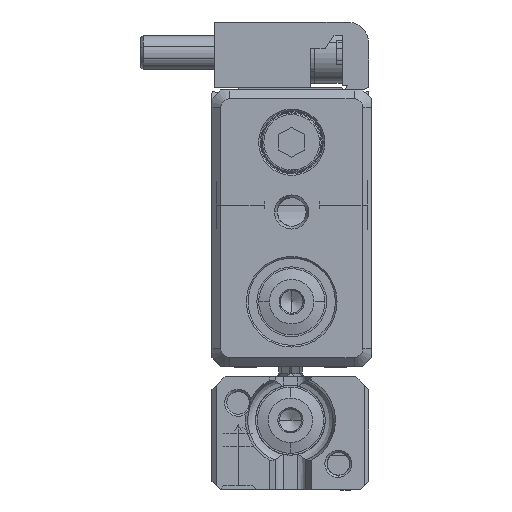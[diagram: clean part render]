
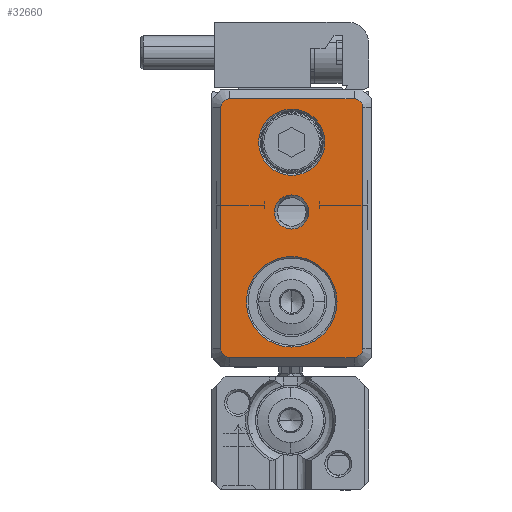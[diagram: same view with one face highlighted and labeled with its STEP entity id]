
A CAD part, left-side view. The second image highlights one B-rep face of the part: STEP entity #32660.
In plain terms, the highlighted planar face has unit normal (-1, 0, 0).
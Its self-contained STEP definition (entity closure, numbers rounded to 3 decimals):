
#30550=CARTESIAN_POINT('',(-93.638,46.3,
-79.283));
#30560=VERTEX_POINT('',#30550);
#30590=CARTESIAN_POINT('',(-93.638,45.3,
-79.283));
#30600=DIRECTION('',(1.,0.,0.));
#30610=DIRECTION('',(0.,1.,0.));
#30620=AXIS2_PLACEMENT_3D('',#30590,#30600,#30610);
#30630=CIRCLE('',#30620,1.);
#30640=CARTESIAN_POINT('',(-93.638,45.3,
-80.283));
#30650=VERTEX_POINT('',#30640);
#30660=EDGE_CURVE('',#30650,#30560,#30630,.T.);
#31560=CARTESIAN_POINT('',(-93.638,38.15,
-65.583));
#31570=DIRECTION('',(1.,0.,0.));
#31580=DIRECTION('',(0.,1.,0.));
#31590=AXIS2_PLACEMENT_3D('',#31560,#31570,#31580);
#31600=PLANE('',#31590);
#31610=CARTESIAN_POINT('',(-93.638,38.15,
-56.983));
#31620=DIRECTION('',(1.,0.,0.));
#31630=DIRECTION('',(0.,-1.,0.));
#31640=AXIS2_PLACEMENT_3D('',#31610,#31620,#31630);
#31650=CIRCLE('',#31640,5.2);
#31660=CARTESIAN_POINT('',(-93.638,32.95,
-56.983));
#31670=VERTEX_POINT('',#31660);
#31680=CARTESIAN_POINT('',(-93.638,43.35,
-56.983));
#31690=VERTEX_POINT('',#31680);
#31700=EDGE_CURVE('',#31670,#31690,#31650,.T.);
#31710=ORIENTED_EDGE('',*,*,#31700,.T.);
#31720=EDGE_CURVE('',#31690,#31670,#31650,.T.);
#31730=ORIENTED_EDGE('',*,*,#31720,.T.);
#31740=EDGE_LOOP('',(#31730,#31710));
#31750=FACE_BOUND('',#31740,.T.);
#31760=CARTESIAN_POINT('',(-93.638,38.15,
-75.283));
#31770=DIRECTION('',(-1.,0.,0.));
#31780=DIRECTION('',(0.,1.,0.));
#31790=AXIS2_PLACEMENT_3D('',#31760,#31770,#31780);
#31800=CIRCLE('',#31790,3.8);
#31810=CARTESIAN_POINT('',(-93.638,34.35,
-75.283));
#31820=VERTEX_POINT('',#31810);
#31830=CARTESIAN_POINT('',(-93.638,41.95,
-75.283));
#31840=VERTEX_POINT('',#31830);
#31850=EDGE_CURVE('',#31820,#31840,#31800,.T.);
#31860=ORIENTED_EDGE('',*,*,#31850,.F.);
#31870=EDGE_CURVE('',#31840,#31820,#31800,.T.);
#31880=ORIENTED_EDGE('',*,*,#31870,.F.);
#31890=EDGE_LOOP('',(#31880,#31860));
#31900=FACE_BOUND('',#31890,.T.);
#31910=CARTESIAN_POINT('',(-93.638,38.15,
-67.283));
#31920=DIRECTION('',(-1.,0.,0.));
#31930=DIRECTION('',(0.,1.,0.));
#31940=AXIS2_PLACEMENT_3D('',#31910,#31920,#31930);
#31950=CIRCLE('',#31940,1.961);
#31960=CARTESIAN_POINT('',(-93.638,40.111,
-67.283));
#31970=VERTEX_POINT('',#31960);
#31980=CARTESIAN_POINT('',(-93.638,36.189,
-67.283));
#31990=VERTEX_POINT('',#31980);
#32000=EDGE_CURVE('',#31970,#31990,#31950,.T.);
#32010=ORIENTED_EDGE('',*,*,#32000,.F.);
#32020=EDGE_CURVE('',#31990,#31970,#31950,.T.);
#32030=ORIENTED_EDGE('',*,*,#32020,.F.);
#32040=EDGE_LOOP('',(#32030,#32010));
#32050=FACE_BOUND('',#32040,.T.);
#32060=CARTESIAN_POINT('',(-93.638,30.,
-49.133));
#32070=DIRECTION('',(0.,0.,1.));
#32080=VECTOR('',#32070,1.);
#32090=LINE('',#32060,#32080);
#32100=CARTESIAN_POINT('',(-93.638,30.,
-79.283));
#32110=VERTEX_POINT('',#32100);
#32120=CARTESIAN_POINT('',(-93.638,30.,
-51.583));
#32130=VERTEX_POINT('',#32120);
#32140=EDGE_CURVE('',#32110,#32130,#32090,.T.);
#32150=ORIENTED_EDGE('',*,*,#32140,.T.);
#32160=CARTESIAN_POINT('',(-93.638,31.,
-79.283));
#32170=DIRECTION('',(1.,0.,0.));
#32180=DIRECTION('',(0.,1.,0.));
#32190=AXIS2_PLACEMENT_3D('',#32160,#32170,#32180);
#32200=CIRCLE('',#32190,1.);
#32210=CARTESIAN_POINT('',(-93.638,31.,
-80.283));
#32220=VERTEX_POINT('',#32210);
#32230=EDGE_CURVE('',#32110,#32220,#32200,.T.);
#32240=ORIENTED_EDGE('',*,*,#32230,.F.);
#32250=CARTESIAN_POINT('',(-93.638,46.9,
-80.283));
#32260=DIRECTION('',(0.,-1.,0.));
#32270=VECTOR('',#32260,1.);
#32280=LINE('',#32250,#32270);
#32290=EDGE_CURVE('',#30650,#32220,#32280,.T.);
#32300=ORIENTED_EDGE('',*,*,#32290,.T.);
#32310=ORIENTED_EDGE('',*,*,#30660,.F.);
#32320=CARTESIAN_POINT('',(-93.638,46.3,
-49.133));
#32330=DIRECTION('',(0.,0.,-1.));
#32340=VECTOR('',#32330,1.);
#32350=LINE('',#32320,#32340);
#32360=CARTESIAN_POINT('',(-93.638,46.3,
-51.583));
#32370=VERTEX_POINT('',#32360);
#32380=EDGE_CURVE('',#32370,#30560,#32350,.T.);
#32390=ORIENTED_EDGE('',*,*,#32380,.T.);
#32400=CARTESIAN_POINT('',(-93.638,45.3,
-51.583));
#32410=DIRECTION('',(1.,0.,0.));
#32420=DIRECTION('',(0.,1.,0.));
#32430=AXIS2_PLACEMENT_3D('',#32400,#32410,#32420);
#32440=CIRCLE('',#32430,1.);
#32450=CARTESIAN_POINT('',(-93.638,45.3,
-50.583));
#32460=VERTEX_POINT('',#32450);
#32470=EDGE_CURVE('',#32370,#32460,#32440,.T.);
#32480=ORIENTED_EDGE('',*,*,#32470,.F.);
#32490=CARTESIAN_POINT('',(-93.638,46.9,
-50.583));
#32500=DIRECTION('',(0.,1.,0.));
#32510=VECTOR('',#32500,1.);
#32520=LINE('',#32490,#32510);
#32530=CARTESIAN_POINT('',(-93.638,31.,
-50.583));
#32540=VERTEX_POINT('',#32530);
#32550=EDGE_CURVE('',#32540,#32460,#32520,.T.);
#32560=ORIENTED_EDGE('',*,*,#32550,.T.);
#32570=CARTESIAN_POINT('',(-93.638,31.,
-51.583));
#32580=DIRECTION('',(1.,0.,0.));
#32590=DIRECTION('',(0.,1.,0.));
#32600=AXIS2_PLACEMENT_3D('',#32570,#32580,#32590);
#32610=CIRCLE('',#32600,1.);
#32620=EDGE_CURVE('',#32540,#32130,#32610,.T.);
#32630=ORIENTED_EDGE('',*,*,#32620,.F.);
#32640=EDGE_LOOP('',(#32630,#32560,#32480,#32390,#32310,#32300,#32240,
#32150));
#32650=FACE_OUTER_BOUND('',#32640,.T.);
#32660=ADVANCED_FACE('',(#31750,#31900,#32050,#32650),#31600,.F.);
